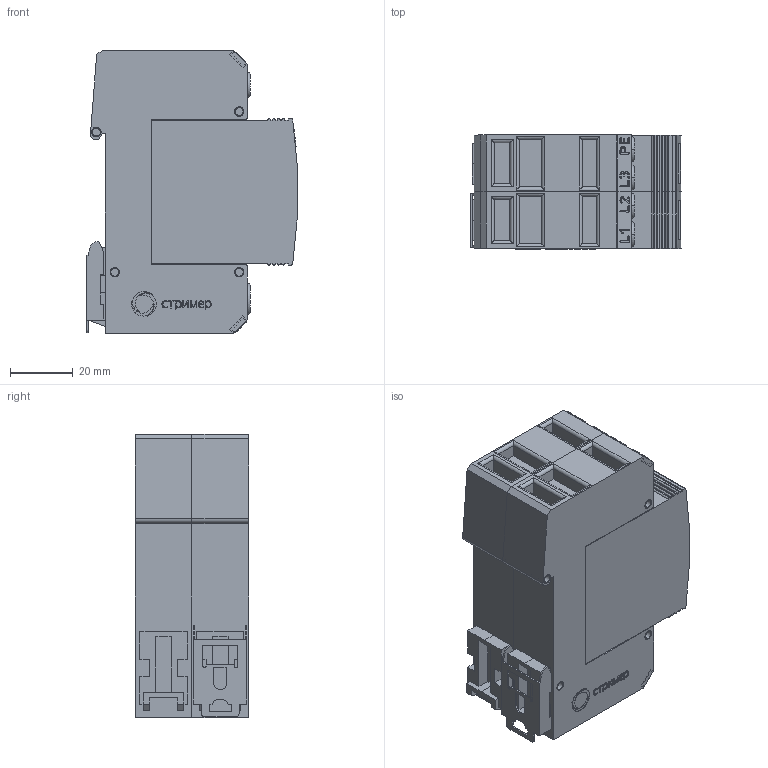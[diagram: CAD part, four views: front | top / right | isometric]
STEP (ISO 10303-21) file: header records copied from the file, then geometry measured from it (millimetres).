
FILE_DESCRIPTION(('TFLEX Exchange Step'),'2;1');
FILE_NAME('X2\041004400442\X0\.124.003.stp', '2022-08-01T13:45:19+03:00',('Pavel Oborin'),('Unknown organisation'),'TFLEX Exchange 2019.2','T-FLEX CAD','Unknown authorisation');
FILE_SCHEMA( ('AUTOMOTIVE_DESIGN { 1 0 10303 214 1 1 1 1 }') );
Length unit declared in the file: millimetre
Products named in the file (19): 0; Буква L1L2L3PE; Планка; буква N:4; буква N:3; ВНЕШНИЙ МОДУЛЬ 18 без ушек:2; Корпус 18 3 контакта:24; Корпус 18 3 контакта:23; Корпус 18 3 контакта:22; Корпус 18 3 контакта:21; Корпус 18 3 контакта:20; Корпус 18 3 контакта:19; Корпус 18 3 контакта:18; Корпус 18 3 контакта:17; Корпус 18 3 контакта:16; Корпус 18 3 контакта:15; Корпус 18 3 контакта:14; Корпус 18 3 контакта:13; Арт.124.003
Assembly tree (33 placements, depth 2):
  Арт.124.003
    0
    Буква L1L2L3PE
    Планка
    буква N:4  x2
    буква N:3  x2
    ВНЕШНИЙ МОДУЛЬ 18 без ушек:2  x2
    Корпус 18 3 контакта:24  x2
    Корпус 18 3 контакта:23  x2
    Корпус 18 3 контакта:22  x2
    Корпус 18 3 контакта:21  x2
    Корпус 18 3 контакта:20  x2
    Корпус 18 3 контакта:19  x2
    Корпус 18 3 контакта:18  x2
    Корпус 18 3 контакта:17  x2
    Корпус 18 3 контакта:16  x2
    Корпус 18 3 контакта:15  x2
    Корпус 18 3 контакта:14  x2
    Корпус 18 3 контакта:13  x2
Bounding box: 66.98 x 36.1 x 90.08 mm (x, y, z)
Volume: 172057.8 mm3; surface area: 47157.9 mm2
Topology: 62 solids, 62 shells, 918 faces, 2252 edges, 1478 vertices
Faces by surface type: plane 576, cylinder 201, bspline 129, torus 12
Entity records: 20822 total; most frequent: CARTESIAN_POINT 7038, ORIENTED_EDGE 2844, DIRECTION 2498, EDGE_CURVE 1422, VECTOR 1014, LINE 1014, VERTEX_POINT 936, AXIS2_PLACEMENT_3D 742
